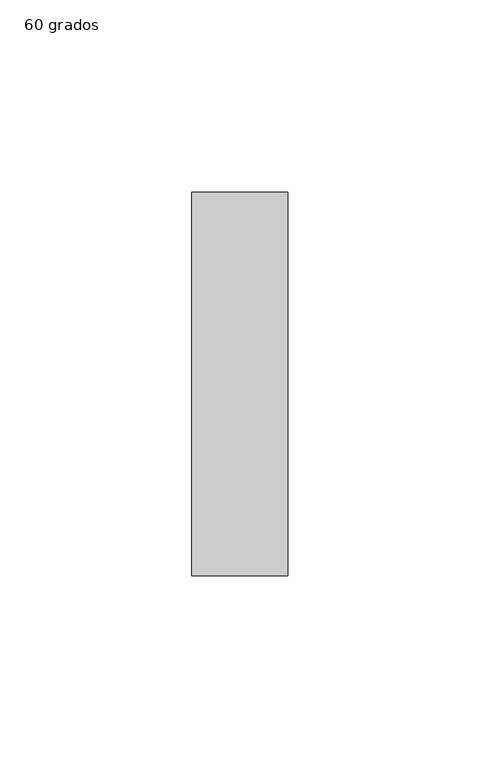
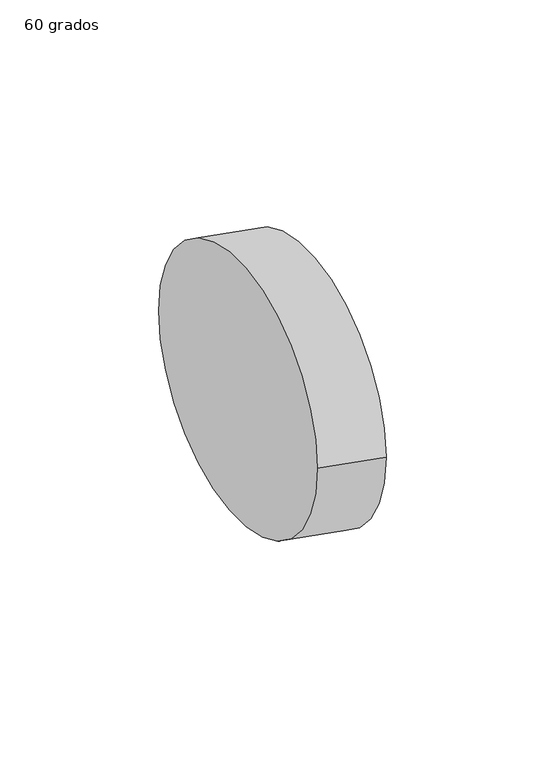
"""IFC4 building model written with IfcOpenShell, lengths in millimetres: duct fitting geometry, M_Transición redonda - Ángulo : 60 grados."""

from ifc_helpers import new_model, si_unit, point, frame, origin, place, context, project, spatial, circle_curve, trimmed, source, transform, mapped, element, save
from ifc_brep_helpers import plane_surface, extruded_surface, advanced_brep


def duct_fitting_60_grados_caba0af4(model_context):
    return source(origin(), model_context, "Body", "AdvancedBrep", [
        advanced_brep(
        [(25.0, -50.0, -4.5379183), (25.0, 50.0, -4.5379183), (0.0, -50.0, 0.0), (0.0, 50.0, 0.0)],
        [
            (0, 1, circle_curve(frame((25.0, 0.0, -4.5379183), z_axis=(1.0, 0.0, 0.0), x_axis=(0.0, 1.0, 0.0)), 50.0)),
            (1, 0, circle_curve(frame((25.0, 0.0, -4.5379183), z_axis=(1.0, 0.0, 0.0), x_axis=(0.0, 1.0, 0.0)), 50.0)),
            (2, 3, circle_curve(frame((0.0, 0.0, 0.0), z_axis=(-1.0, 0.0, 0.0), x_axis=(0.0, 1.0, 0.0)), 50.0)),
            (3, 2, circle_curve(frame((0.0, 0.0, 0.0), z_axis=(-1.0, 0.0, 0.0), x_axis=(0.0, 1.0, 0.0)), 50.0)),
            (3, 1),
            (0, 2),
        ],
        [
            plane_surface(frame((25.0, 0.0, -4.5379183), z_axis=(1.0, 0.0, 0.0), x_axis=(0.0, 0.0, -1.0))),
            plane_surface(frame((0.0, 0.0, 0.0), z_axis=(-1.0, 0.0, 0.0), x_axis=(0.0, 0.0, -1.0))),
            extruded_surface(trimmed(circle_curve(frame((0.0, 0.0, 0.0), z_axis=(1.0, 0.0, 0.0), x_axis=(0.0, 1.0, 0.0)), 50.0), [point((0.0, -50.0, 0.0))], [point((0.0, 50.0, 0.0))], True, "CARTESIAN"), (25.0, 0.0, -4.5379183), 25.408516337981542),
            extruded_surface(trimmed(circle_curve(frame((0.0, 0.0, 0.0), z_axis=(1.0, 0.0, 0.0), x_axis=(0.0, 1.0, 0.0)), 50.0), [point((0.0, 50.0, 0.0))], [point((0.0, -50.0, 0.0))], True, "CARTESIAN"), (25.0, 0.0, -4.5379183), 25.408516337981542),
        ],
        [
            (0, [[1, 2]]),
            (1, [[3, 4]]),
            (2, [[-4, 5, -1, 6]]),
            (3, [[-3, -6, -2, -5]]),
        ],
    ),
    ])


if __name__ == "__main__":
    model = new_model("IFC4")
    model_context = context("Model", 3, world=origin())
    ifc_project = project(units=[si_unit("LENGTHUNIT", "METRE", prefix="MILLI")], contexts=[model_context])
    site = spatial("IfcSite", under=ifc_project)
    building = spatial("IfcBuilding", under=site)
    placement = place(None, origin())
    duct_fitting_60_grados_shape = duct_fitting_60_grados_caba0af4(model_context)
    element("IfcDuctFitting", 1, ObjectType="M_Transición redonda - Ángulo : 60 grados", at=placement, inside=building, context=model_context, shape_type="MappedRepresentation", body=[
        mapped(duct_fitting_60_grados_shape, transform((0.0, 0.0, 0.0), x_axis=(1.0, 0.0, 0.0), y_axis=(0.0, 1.0, 0.0), z_axis=(0.0, 0.0, 1.0))),
    ])
    save(model, "model.ifc")
